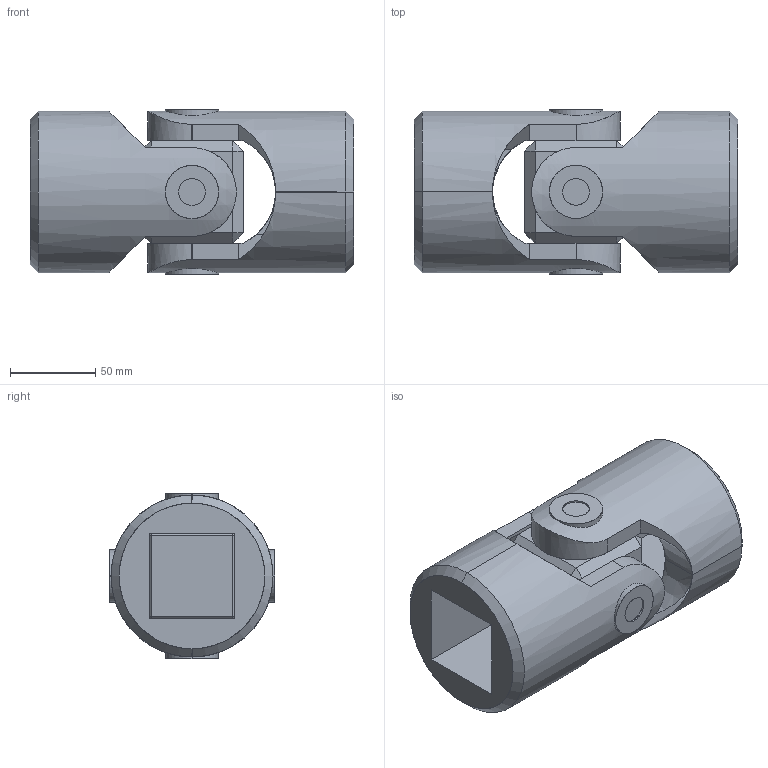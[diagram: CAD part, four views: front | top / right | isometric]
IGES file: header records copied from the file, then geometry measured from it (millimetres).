
Start section: SolidWorks IGES file using analytic representation for surfaces
Global section: file name: C:\Users\IanO\Desktop\R3690_v2\R3690_v2_20231020_IGES\R3690.050-SB.igs; native system: SolidWorks 2019; preprocessor: SolidWorks 2019; author: IanO; date: 231020.153136; units: millimetre
Bounding box: 190 x 96.9 x 96.9 mm (x, y, z)
Surface area: 145705.1 mm2 (no closed solid volume)
Topology: 0 solids, 0 shells, 108 faces, 2708 edges, 2708 vertices
Faces by surface type: bspline 64, revolution 44
